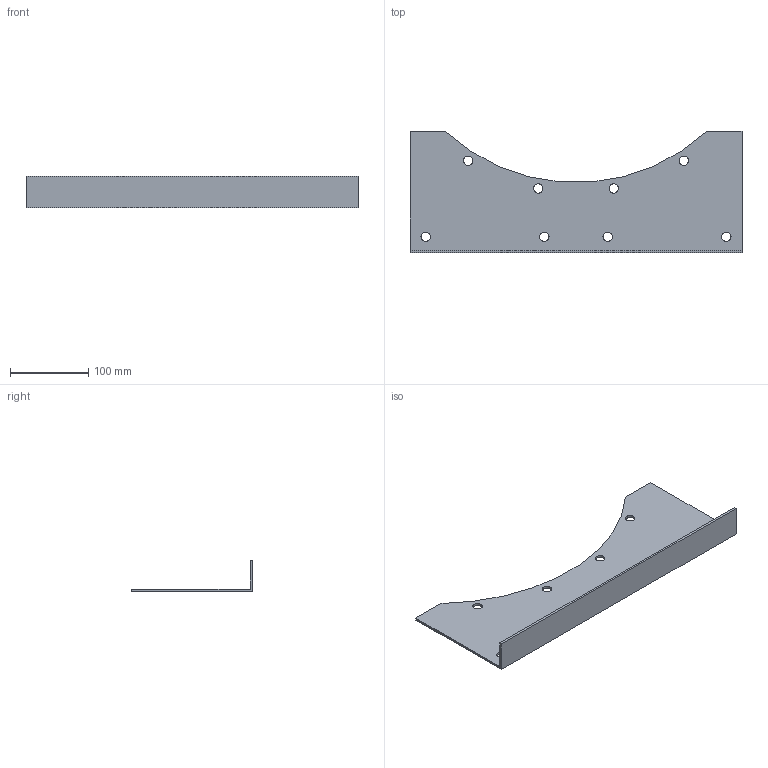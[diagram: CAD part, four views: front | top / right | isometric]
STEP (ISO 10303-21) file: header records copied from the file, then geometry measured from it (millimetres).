
FILE_DESCRIPTION(('STEP AP214'),'1');
FILE_NAME('accessory_5138902600.stp','2017-10-09T07:39:13',('TraceParts'),('TraceParts S.A.'),'Spatial InterOp 3D',' ',' ');
FILE_SCHEMA(('automotive_design'));
Length unit declared in the file: millimetre
Products named in the file (1): accessory_5138902600
Bounding box: 425 x 155 x 40 mm (x, y, z)
Volume: 197028 mm3; surface area: 136058.6 mm2
Topology: 1 solids, 1 shells, 26 faces, 72 edges, 48 vertices
Faces by surface type: cylinder 17, plane 9
Entity records: 1106 total; most frequent: DIRECTION 160, CARTESIAN_POINT 147, ORIENTED_EDGE 144, EDGE_CURVE 72, AXIS2_PLACEMENT_3D 61, VERTEX_POINT 48, EDGE_LOOP 42, LINE 38
